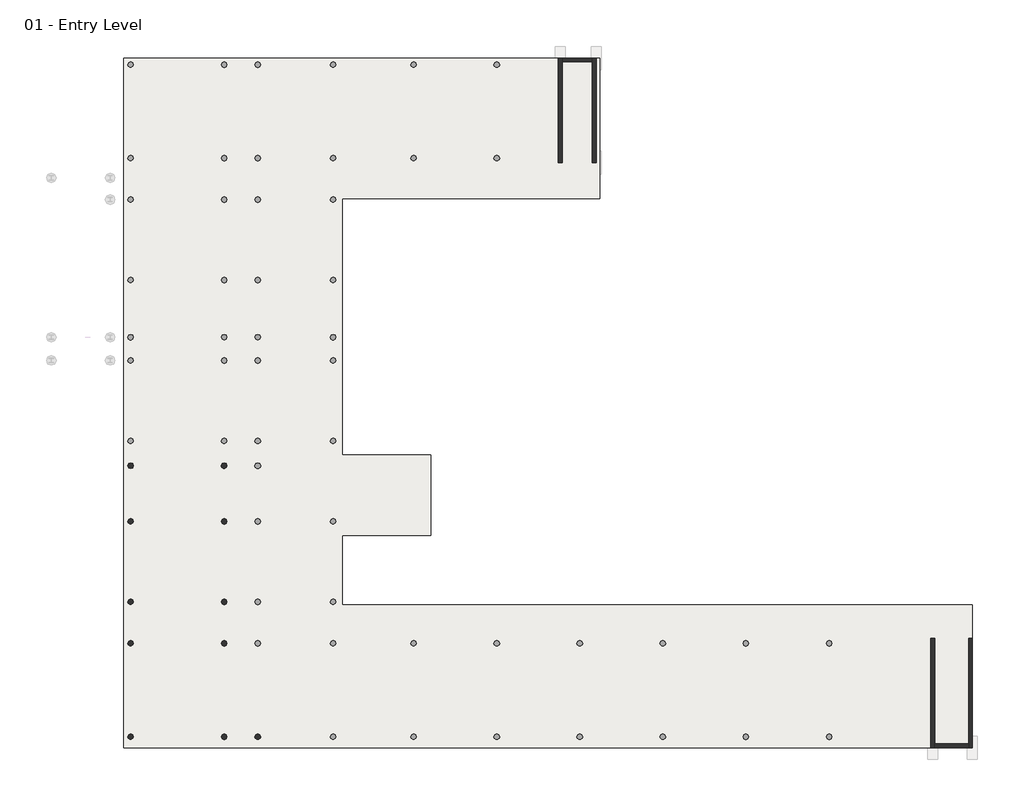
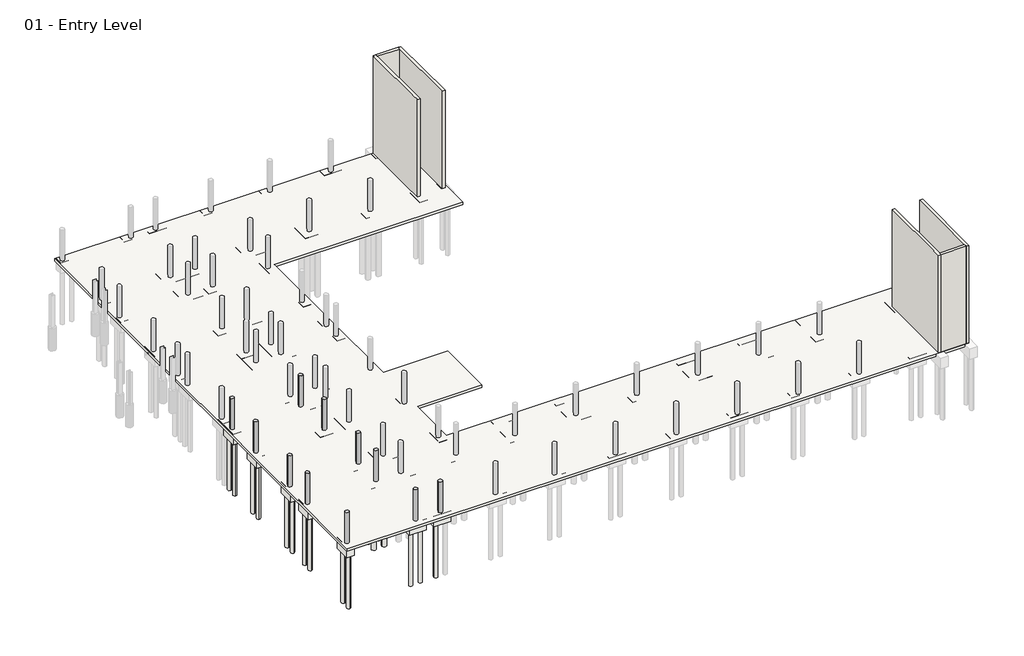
# One storey, part 1 of 6: 43 slabs, 11 columns, 6 walls.
"""IFC4 building model written with IfcOpenShell, lengths in millimetres."""

from ifc_helpers import new_model, si_unit, point, frame, frame_2d, origin, origin_with_axes, place, context, project, spatial, polyline, circle_curve, trimmed, segment, composite_curve, outline, extrude, faceted_brep, element, save
from ifc_brep_helpers import plane_surface, cylinder_surface, advanced_brep

model = new_model("IFC4")

# Units and contexts
model_context = context("Model", 3, world=origin())
ifc_project = project(units=[si_unit("LENGTHUNIT", "METRE", prefix="MILLI")], contexts=[model_context])

# Site, building, storey
site = spatial("IfcSite", under=ifc_project)
building = spatial("IfcBuilding", under=site)
storey = spatial("IfcBuildingStorey", under=building, Name="01 - Entry Level", Elevation=0.0)

# Columns
placement = place(None, origin())
element("IfcColumn", 1, ObjectType="M_Concrete-Round-Column : 450mm", at=placement, inside=storey, context=model_context, shape_type="SweptSolid", body=[
    extrude(outline(composite_curve([segment(trimmed(circle_curve(frame_2d((-9201.9994416, -5769.4613801)), 225.0), [point((-8976.9994416, -5769.4613801))], [point((-9426.9994416, -5769.4613801))], False, "CARTESIAN"), True, "CONTINUOUS"), segment(trimmed(circle_curve(frame_2d((-9201.9994416, -5769.4613801)), 225.0), [point((-9426.9994416, -5769.4613801))], [point((-8976.9994416, -5769.4613801))], False, "CARTESIAN"), True, "CONTINUOUS")], self_intersect=False)), origin_with_axes(), (0.0, 0.0, 1.0), 3500.0),
])
element("IfcColumn", 2, ObjectType="M_Concrete-Round-Column : 450mm", at=placement, inside=storey, context=model_context, shape_type="SweptSolid", body=[
    extrude(outline(composite_curve([segment(trimmed(circle_curve(frame_2d((-9201.9994416, -12068.6613801)), 225.0), [point((-8976.9994416, -12068.6613801))], [point((-9426.9994416, -12068.6613801))], False, "CARTESIAN"), True, "CONTINUOUS"), segment(trimmed(circle_curve(frame_2d((-9201.9994416, -12068.6613801)), 225.0), [point((-9426.9994416, -12068.6613801))], [point((-8976.9994416, -12068.6613801))], False, "CARTESIAN"), True, "CONTINUOUS")], self_intersect=False)), origin_with_axes(), (0.0, 0.0, 1.0), 3500.0),
])
element("IfcColumn", 3, ObjectType="M_Concrete-Round-Column : 450mm", at=placement, inside=storey, context=model_context, shape_type="SweptSolid", body=[
    extrude(outline(composite_curve([segment(trimmed(circle_curve(frame_2d((-9201.9994416, -15319.8613801)), 225.0), [point((-8976.9994416, -15319.8613801))], [point((-9426.9994416, -15319.8613801))], False, "CARTESIAN"), True, "CONTINUOUS"), segment(trimmed(circle_curve(frame_2d((-9201.9994416, -15319.8613801)), 225.0), [point((-9426.9994416, -15319.8613801))], [point((-8976.9994416, -15319.8613801))], False, "CARTESIAN"), True, "CONTINUOUS")], self_intersect=False)), origin_with_axes(), (0.0, 0.0, 1.0), 3500.0),
])
element("IfcColumn", 4, ObjectType="M_Concrete-Round-Column : 450mm", at=placement, inside=storey, context=model_context, shape_type="SweptSolid", body=[
    extrude(outline(composite_curve([segment(trimmed(circle_curve(frame_2d((-9201.9994416, -22635.0613801)), 225.0), [point((-8976.9994416, -22635.0613801))], [point((-9426.9994416, -22635.0613801))], False, "CARTESIAN"), True, "CONTINUOUS"), segment(trimmed(circle_curve(frame_2d((-9201.9994416, -22635.0613801)), 225.0), [point((-9426.9994416, -22635.0613801))], [point((-8976.9994416, -22635.0613801))], False, "CARTESIAN"), True, "CONTINUOUS")], self_intersect=False)), origin_with_axes(), (0.0, 0.0, 1.0), 3500.0),
])
element("IfcColumn", 5, ObjectType="M_Concrete-Round-Column : 450mm", at=placement, inside=storey, context=model_context, shape_type="SweptSolid", body=[
    extrude(outline(composite_curve([segment(trimmed(circle_curve(frame_2d((-9201.9994416, -1413.3613801)), 225.0), [point((-8976.9994416, -1413.3613801))], [point((-9426.9994416, -1413.3613801))], False, "CARTESIAN"), True, "CONTINUOUS"), segment(trimmed(circle_curve(frame_2d((-9201.9994416, -1413.3613801)), 225.0), [point((-9426.9994416, -1413.3613801))], [point((-8976.9994416, -1413.3613801))], False, "CARTESIAN"), True, "CONTINUOUS")], self_intersect=False)), origin_with_axes(), (0.0, 0.0, 1.0), 3500.0),
])
element("IfcColumn", 6, ObjectType="M_Concrete-Round-Column : 450mm", at=placement, inside=storey, context=model_context, shape_type="SweptSolid", body=[
    extrude(outline(composite_curve([segment(trimmed(circle_curve(frame_2d((-1886.7994416, -5769.4613801)), 225.0), [point((-1661.7994416, -5769.4613801))], [point((-2111.7994416, -5769.4613801))], False, "CARTESIAN"), True, "CONTINUOUS"), segment(trimmed(circle_curve(frame_2d((-1886.7994416, -5769.4613801)), 225.0), [point((-2111.7994416, -5769.4613801))], [point((-1661.7994416, -5769.4613801))], False, "CARTESIAN"), True, "CONTINUOUS")], self_intersect=False)), origin_with_axes(), (0.0, 0.0, 1.0), 3500.0),
])
element("IfcColumn", 7, ObjectType="M_Concrete-Round-Column : 450mm", at=placement, inside=storey, context=model_context, shape_type="SweptSolid", body=[
    extrude(outline(composite_curve([segment(trimmed(circle_curve(frame_2d((-1886.7994416, -12068.6613801)), 225.0), [point((-1661.7994416, -12068.6613801))], [point((-2111.7994416, -12068.6613801))], False, "CARTESIAN"), True, "CONTINUOUS"), segment(trimmed(circle_curve(frame_2d((-1886.7994416, -12068.6613801)), 225.0), [point((-2111.7994416, -12068.6613801))], [point((-1661.7994416, -12068.6613801))], False, "CARTESIAN"), True, "CONTINUOUS")], self_intersect=False)), origin_with_axes(), (0.0, 0.0, 1.0), 3500.0),
])
element("IfcColumn", 8, ObjectType="M_Concrete-Round-Column : 450mm", at=placement, inside=storey, context=model_context, shape_type="SweptSolid", body=[
    extrude(outline(composite_curve([segment(trimmed(circle_curve(frame_2d((-1886.7994416, -15319.8613801)), 225.0), [point((-1661.7994416, -15319.8613801))], [point((-2111.7994416, -15319.8613801))], False, "CARTESIAN"), True, "CONTINUOUS"), segment(trimmed(circle_curve(frame_2d((-1886.7994416, -15319.8613801)), 225.0), [point((-2111.7994416, -15319.8613801))], [point((-1661.7994416, -15319.8613801))], False, "CARTESIAN"), True, "CONTINUOUS")], self_intersect=False)), origin_with_axes(), (0.0, 0.0, 1.0), 3500.0),
])
element("IfcColumn", 9, ObjectType="M_Concrete-Round-Column : 450mm", at=placement, inside=storey, context=model_context, shape_type="SweptSolid", body=[
    extrude(outline(composite_curve([segment(trimmed(circle_curve(frame_2d((-1886.7994416, -22635.0613801)), 225.0), [point((-1661.7994416, -22635.0613801))], [point((-2111.7994416, -22635.0613801))], False, "CARTESIAN"), True, "CONTINUOUS"), segment(trimmed(circle_curve(frame_2d((-1886.7994416, -22635.0613801)), 225.0), [point((-2111.7994416, -22635.0613801))], [point((-1661.7994416, -22635.0613801))], False, "CARTESIAN"), True, "CONTINUOUS")], self_intersect=False)), origin_with_axes(), (0.0, 0.0, 1.0), 3500.0),
])
element("IfcColumn", 10, ObjectType="M_Concrete-Round-Column : 450mm", at=placement, inside=storey, context=model_context, shape_type="SweptSolid", body=[
    extrude(outline(composite_curve([segment(trimmed(circle_curve(frame_2d((-1886.7994416, -1413.3613801)), 225.0), [point((-1661.7994416, -1413.3613801))], [point((-2111.7994416, -1413.3613801))], False, "CARTESIAN"), True, "CONTINUOUS"), segment(trimmed(circle_curve(frame_2d((-1886.7994416, -1413.3613801)), 225.0), [point((-2111.7994416, -1413.3613801))], [point((-1661.7994416, -1413.3613801))], False, "CARTESIAN"), True, "CONTINUOUS")], self_intersect=False)), origin_with_axes(), (0.0, 0.0, 1.0), 3500.0),
])
element("IfcColumn", 11, ObjectType="M_Concrete-Round-Column : 450mm", at=placement, inside=storey, context=model_context, shape_type="AdvancedBrep", body=[
    advanced_brep(
    [(529.8005584, -22635.0613801, 0.0), (979.8005584, -22635.0613801, 0.0), (529.8005584, -22635.0613801, 3500.0), (651.7257264, -22435.0599326, 3500.0), (857.878199, -22435.0613801, 3500.0), (979.8005584, -22635.0613801, 3500.0), (857.878199, -22835.0613801, 3500.0), (651.7257264, -22835.0628276, 3500.0)],
    [
        (0, 1, circle_curve(frame((754.8005584, -22635.0613801, 0.0), z_axis=(0.0, 0.0, -1.0), x_axis=(1.0, 0.0, 0.0)), 225.0)),
        (1, 0, circle_curve(frame((754.8005584, -22635.0613801, 0.0), z_axis=(0.0, 0.0, -1.0), x_axis=(1.0, 0.0, 0.0)), 225.0)),
        (0, 2),
        (2, 3, circle_curve(frame((754.8005584, -22635.0613801, 3500.0), z_axis=(0.0, 0.0, -1.0), x_axis=(1.0, 0.0, 0.0)), 225.0)),
        (3, 4, circle_curve(frame((754.8005584, -22635.0613801, 3500.0), z_axis=(0.0, 0.0, -1.0), x_axis=(1.0, 0.0, 0.0)), 225.0)),
        (4, 5, circle_curve(frame((754.8005584, -22635.0613801, 3500.0), z_axis=(0.0, 0.0, -1.0), x_axis=(1.0, 0.0, 0.0)), 225.0)),
        (5, 1),
        (5, 6, circle_curve(frame((754.8005584, -22635.0613801, 3500.0), z_axis=(0.0, 0.0, -1.0), x_axis=(1.0, 0.0, 0.0)), 225.0)),
        (6, 7, circle_curve(frame((754.8005584, -22635.0613801, 3500.0), z_axis=(0.0, 0.0, -1.0), x_axis=(1.0, 0.0, 0.0)), 225.0)),
        (7, 2, circle_curve(frame((754.8005584, -22635.0613801, 3500.0), z_axis=(0.0, 0.0, -1.0), x_axis=(1.0, 0.0, 0.0)), 225.0)),
    ],
    [
        plane_surface(frame((979.8005584, -22635.0613801, 0.0), z_axis=(0.0, 0.0, -1.0), x_axis=(0.0, -1.0, 0.0))),
        cylinder_surface(frame((754.8005584, -22635.0613801, 0.0), z_axis=(0.0, 0.0, 1.0), x_axis=(1.0, 0.0, 0.0)), 225.0),
        plane_surface(frame((24268.8999097, 30514.0407562, 3500.0), z_axis=(0.0, 0.0, 1.0), x_axis=(0.0, -1.0, 0.0))),
    ],
    [
        (0, [[1, 2]]),
        (1, [[-1, 3, 4, 5, 6, 7]]),
        (1, [[-2, -7, 8, 9, 10, -3]]),
        (2, [[-6, -5, -4, -10, -9, -8]]),
    ],
),
])

# Slabs
element("IfcSlab", 12, ObjectType="Generic 300mm", at=placement, inside=storey, context=model_context, shape_type="SweptSolid", body=[
    extrude(outline(polyline([(27511.8999097, 30514.0407562), (27511.8999097, 19514.0407562), (7377.7005607, 19514.0407562), (7377.7005607, -585.9592438), (14277.7005607, -585.9592438), (14277.7005607, -6885.9592438), (7377.7005607, -6885.9592438), (7377.7005607, -12296.3611817), (56672.578114, -12296.3611817), (56672.578114, -23495.0613801), (-9722.2994393, -23495.0613801), (-9722.2994393, 30514.0407562), (27511.8999097, 30514.0407562)])), frame((0.0, 0.0, -300.0), z_axis=(0.0, 0.0, 1.0), x_axis=(1.0, 0.0, 0.0)), (0.0, 0.0, 1.0), 300.0),
])
element("IfcSlab", 13, ObjectType="M_Pile Cap-2 Pile : 800 x 1800 x 900mm", at=placement, inside=storey, context=model_context, shape_type="SweptSolid", body=[
    extrude(outline(polyline([(-9601.9994416, -513.3613801), (-8801.9994416, -513.3613801), (-8801.9994416, -2313.3613801), (-9601.9994416, -2313.3613801), (-9601.9994416, -513.3613801)])), frame((0.0, 0.0, -1200.0), z_axis=(0.0, 0.0, 1.0), x_axis=(1.0, 0.0, 0.0)), (0.0, 0.0, 1.0), 1200.0),
])
element("IfcSlab", 14, ObjectType="M_Pile Cap-2 Pile : 800 x 1800 x 900mm", at=placement, inside=storey, context=model_context, shape_type="SweptSolid", body=[
    extrude(outline(polyline([(-9601.9994416, -4869.4613801), (-8801.9994416, -4869.4613801), (-8801.9994416, -6669.4613801), (-9601.9994416, -6669.4613801), (-9601.9994416, -4869.4613801)])), frame((0.0, 0.0, -1200.0), z_axis=(0.0, 0.0, 1.0), x_axis=(1.0, 0.0, 0.0)), (0.0, 0.0, 1.0), 1200.0),
])
element("IfcSlab", 15, ObjectType="M_Pile Cap-2 Pile : 800 x 1800 x 900mm", at=placement, inside=storey, context=model_context, shape_type="SweptSolid", body=[
    extrude(outline(polyline([(-9601.9994416, -11168.6613801), (-8801.9994416, -11168.6613801), (-8801.9994416, -12968.6613801), (-9601.9994416, -12968.6613801), (-9601.9994416, -11168.6613801)])), frame((0.0, 0.0, -1200.0), z_axis=(0.0, 0.0, 1.0), x_axis=(1.0, 0.0, 0.0)), (0.0, 0.0, 1.0), 1200.0),
])
element("IfcSlab", 16, ObjectType="M_Pile Cap-2 Pile : 800 x 1800 x 900mm", at=placement, inside=storey, context=model_context, shape_type="SweptSolid", body=[
    extrude(outline(polyline([(-9601.9994416, -14419.8613801), (-8801.9994416, -14419.8613801), (-8801.9994416, -16219.8613801), (-9601.9994416, -16219.8613801), (-9601.9994416, -14419.8613801)])), frame((0.0, 0.0, -1200.0), z_axis=(0.0, 0.0, 1.0), x_axis=(1.0, 0.0, 0.0)), (0.0, 0.0, 1.0), 1200.0),
])
element("IfcSlab", 17, ObjectType="M_Pile Cap-2 Pile : 800 x 1800 x 900mm", at=placement, inside=storey, context=model_context, shape_type="SweptSolid", body=[
    extrude(outline(polyline([(-9601.9994416, -21510.0613801), (-8801.9994416, -21510.0613801), (-8801.9994416, -23310.0613801), (-9601.9994416, -23310.0613801), (-9601.9994416, -21510.0613801)])), frame((0.0, 0.0, -1200.0), z_axis=(0.0, 0.0, 1.0), x_axis=(1.0, 0.0, 0.0)), (0.0, 0.0, 1.0), 1200.0),
])
element("IfcSlab", 18, ObjectType="M_Pile Cap-2 Pile : 800 x 1800 x 900mm", at=placement, inside=storey, context=model_context, shape_type="SweptSolid", body=[
    extrude(outline(polyline([(-986.7994416, -22235.0613801), (-986.7994416, -23035.0613801), (-2786.7994416, -23035.0613801), (-2786.7994416, -22235.0613801), (-986.7994416, -22235.0613801)])), frame((0.0, 0.0, -1200.0), z_axis=(0.0, 0.0, 1.0), x_axis=(1.0, 0.0, 0.0)), (0.0, 0.0, 1.0), 1200.0),
])
element("IfcSlab", 19, ObjectType="M_Pile Cap-2 Pile : 800 x 1800 x 900mm", at=placement, inside=storey, context=model_context, shape_type="SweptSolid", body=[
    extrude(outline(polyline([(1654.8005584, -22235.0613801), (1654.8005584, -23035.0613801), (-145.1994416, -23035.0613801), (-145.1994416, -22235.0613801), (1654.8005584, -22235.0613801)])), frame((0.0, 0.0, -1200.0), z_axis=(0.0, 0.0, 1.0), x_axis=(1.0, 0.0, 0.0)), (0.0, 0.0, 1.0), 1200.0),
])
element("IfcSlab", 20, ObjectType="M_Pile Cap-4 Pile : 2000 x 2000 x 900mm", at=placement, inside=storey, context=model_context, shape_type="SweptSolid", body=[
    extrude(outline(polyline([(-886.7994416, -14319.8613801), (-886.7994416, -16319.8613801), (-2886.7994416, -16319.8613801), (-2886.7994416, -14319.8613801), (-886.7994416, -14319.8613801)])), frame((0.0, 0.0, -1200.0), z_axis=(0.0, 0.0, 1.0), x_axis=(1.0, 0.0, 0.0)), (0.0, 0.0, 1.0), 1200.0),
])
element("IfcSlab", 21, ObjectType="M_Pile Cap-4 Pile : 2000 x 2000 x 900mm", at=placement, inside=storey, context=model_context, shape_type="SweptSolid", body=[
    extrude(outline(polyline([(-886.7994416, -11068.6613801), (-886.7994416, -13068.6613801), (-2886.7994416, -13068.6613801), (-2886.7994416, -11068.6613801), (-886.7994416, -11068.6613801)])), frame((0.0, 0.0, -1200.0), z_axis=(0.0, 0.0, 1.0), x_axis=(1.0, 0.0, 0.0)), (0.0, 0.0, 1.0), 1200.0),
])
element("IfcSlab", 22, ObjectType="M_Pile Cap-4 Pile : 2000 x 2000 x 900mm", at=placement, inside=storey, context=model_context, shape_type="SweptSolid", body=[
    extrude(outline(polyline([(-886.7994416, -4769.4613801), (-886.7994416, -6769.4613801), (-2886.7994416, -6769.4613801), (-2886.7994416, -4769.4613801), (-886.7994416, -4769.4613801)])), frame((0.0, 0.0, -1200.0), z_axis=(0.0, 0.0, 1.0), x_axis=(1.0, 0.0, 0.0)), (0.0, 0.0, 1.0), 1200.0),
])
element("IfcSlab", 23, ObjectType="M_Pile Cap-4 Pile : 2000 x 2000 x 900mm", at=placement, inside=storey, context=model_context, shape_type="SweptSolid", body=[
    extrude(outline(polyline([(-886.7994416, -413.3613801), (-886.7994416, -2413.3613801), (-2886.7994416, -2413.3613801), (-2886.7994416, -413.3613801), (-886.7994416, -413.3613801)])), frame((0.0, 0.0, -1200.0), z_axis=(0.0, 0.0, 1.0), x_axis=(1.0, 0.0, 0.0)), (0.0, 0.0, 1.0), 1200.0),
])
element("IfcSlab", 24, ObjectType="M_Pile-Steel Pipe : 400mm Diameter", at=placement, inside=storey, context=model_context, shape_type="SweptSolid", body=[
    extrude(outline(composite_curve([segment(trimmed(circle_curve(frame_2d((-9201.9994416, -1913.3613801)), 200.0), [point((-9201.9994416, -2113.3613801))], [point((-9201.9994416, -1713.3613801))], False, "CARTESIAN"), True, "CONTINUOUS"), segment(trimmed(circle_curve(frame_2d((-9201.9994416, -1913.3613801)), 200.0), [point((-9201.9994416, -1713.3613801))], [point((-9201.9994416, -2113.3613801))], False, "CARTESIAN"), True, "CONTINUOUS")], self_intersect=False)), frame((0.0, 0.0, -7200.0), z_axis=(0.0, 0.0, 1.0), x_axis=(1.0, 0.0, 0.0)), (0.0, 0.0, 1.0), 6000.0),
])
element("IfcSlab", 25, ObjectType="M_Pile-Steel Pipe : 400mm Diameter", at=placement, inside=storey, context=model_context, shape_type="SweptSolid", body=[
    extrude(outline(composite_curve([segment(trimmed(circle_curve(frame_2d((-9201.9994416, -913.3613801)), 200.0), [point((-9201.9994416, -1113.3613801))], [point((-9201.9994416, -713.3613801))], False, "CARTESIAN"), True, "CONTINUOUS"), segment(trimmed(circle_curve(frame_2d((-9201.9994416, -913.3613801)), 200.0), [point((-9201.9994416, -713.3613801))], [point((-9201.9994416, -1113.3613801))], False, "CARTESIAN"), True, "CONTINUOUS")], self_intersect=False)), frame((0.0, 0.0, -7200.0), z_axis=(0.0, 0.0, 1.0), x_axis=(1.0, 0.0, 0.0)), (0.0, 0.0, 1.0), 6000.0),
])
element("IfcSlab", 26, ObjectType="M_Pile-Steel Pipe : 400mm Diameter", at=placement, inside=storey, context=model_context, shape_type="SweptSolid", body=[
    extrude(outline(composite_curve([segment(trimmed(circle_curve(frame_2d((-9201.9994416, -6269.4613801)), 200.0), [point((-9201.9994416, -6469.4613801))], [point((-9201.9994416, -6069.4613801))], False, "CARTESIAN"), True, "CONTINUOUS"), segment(trimmed(circle_curve(frame_2d((-9201.9994416, -6269.4613801)), 200.0), [point((-9201.9994416, -6069.4613801))], [point((-9201.9994416, -6469.4613801))], False, "CARTESIAN"), True, "CONTINUOUS")], self_intersect=False)), frame((0.0, 0.0, -7200.0), z_axis=(0.0, 0.0, 1.0), x_axis=(1.0, 0.0, 0.0)), (0.0, 0.0, 1.0), 6000.0),
])
element("IfcSlab", 27, ObjectType="M_Pile-Steel Pipe : 400mm Diameter", at=placement, inside=storey, context=model_context, shape_type="SweptSolid", body=[
    extrude(outline(composite_curve([segment(trimmed(circle_curve(frame_2d((-9201.9994416, -5269.4613801)), 200.0), [point((-9201.9994416, -5469.4613801))], [point((-9201.9994416, -5069.4613801))], False, "CARTESIAN"), True, "CONTINUOUS"), segment(trimmed(circle_curve(frame_2d((-9201.9994416, -5269.4613801)), 200.0), [point((-9201.9994416, -5069.4613801))], [point((-9201.9994416, -5469.4613801))], False, "CARTESIAN"), True, "CONTINUOUS")], self_intersect=False)), frame((0.0, 0.0, -7200.0), z_axis=(0.0, 0.0, 1.0), x_axis=(1.0, 0.0, 0.0)), (0.0, 0.0, 1.0), 6000.0),
])
element("IfcSlab", 28, ObjectType="M_Pile-Steel Pipe : 400mm Diameter", at=placement, inside=storey, context=model_context, shape_type="SweptSolid", body=[
    extrude(outline(composite_curve([segment(trimmed(circle_curve(frame_2d((-9201.9994416, -12568.6613801)), 200.0), [point((-9201.9994416, -12768.6613801))], [point((-9201.9994416, -12368.6613801))], False, "CARTESIAN"), True, "CONTINUOUS"), segment(trimmed(circle_curve(frame_2d((-9201.9994416, -12568.6613801)), 200.0), [point((-9201.9994416, -12368.6613801))], [point((-9201.9994416, -12768.6613801))], False, "CARTESIAN"), True, "CONTINUOUS")], self_intersect=False)), frame((0.0, 0.0, -7200.0), z_axis=(0.0, 0.0, 1.0), x_axis=(1.0, 0.0, 0.0)), (0.0, 0.0, 1.0), 6000.0),
])
element("IfcSlab", 29, ObjectType="M_Pile-Steel Pipe : 400mm Diameter", at=placement, inside=storey, context=model_context, shape_type="SweptSolid", body=[
    extrude(outline(composite_curve([segment(trimmed(circle_curve(frame_2d((-9201.9994416, -11568.6613801)), 200.0), [point((-9201.9994416, -11768.6613801))], [point((-9201.9994416, -11368.6613801))], False, "CARTESIAN"), True, "CONTINUOUS"), segment(trimmed(circle_curve(frame_2d((-9201.9994416, -11568.6613801)), 200.0), [point((-9201.9994416, -11368.6613801))], [point((-9201.9994416, -11768.6613801))], False, "CARTESIAN"), True, "CONTINUOUS")], self_intersect=False)), frame((0.0, 0.0, -7200.0), z_axis=(0.0, 0.0, 1.0), x_axis=(1.0, 0.0, 0.0)), (0.0, 0.0, 1.0), 6000.0),
])
element("IfcSlab", 30, ObjectType="M_Pile-Steel Pipe : 400mm Diameter", at=placement, inside=storey, context=model_context, shape_type="SweptSolid", body=[
    extrude(outline(composite_curve([segment(trimmed(circle_curve(frame_2d((-9201.9994416, -15819.8613801)), 200.0), [point((-9201.9994416, -16019.8613801))], [point((-9201.9994416, -15619.8613801))], False, "CARTESIAN"), True, "CONTINUOUS"), segment(trimmed(circle_curve(frame_2d((-9201.9994416, -15819.8613801)), 200.0), [point((-9201.9994416, -15619.8613801))], [point((-9201.9994416, -16019.8613801))], False, "CARTESIAN"), True, "CONTINUOUS")], self_intersect=False)), frame((0.0, 0.0, -7200.0), z_axis=(0.0, 0.0, 1.0), x_axis=(1.0, 0.0, 0.0)), (0.0, 0.0, 1.0), 6000.0),
])
element("IfcSlab", 31, ObjectType="M_Pile-Steel Pipe : 400mm Diameter", at=placement, inside=storey, context=model_context, shape_type="SweptSolid", body=[
    extrude(outline(composite_curve([segment(trimmed(circle_curve(frame_2d((-9201.9994416, -14819.8613801)), 200.0), [point((-9201.9994416, -15019.8613801))], [point((-9201.9994416, -14619.8613801))], False, "CARTESIAN"), True, "CONTINUOUS"), segment(trimmed(circle_curve(frame_2d((-9201.9994416, -14819.8613801)), 200.0), [point((-9201.9994416, -14619.8613801))], [point((-9201.9994416, -15019.8613801))], False, "CARTESIAN"), True, "CONTINUOUS")], self_intersect=False)), frame((0.0, 0.0, -7200.0), z_axis=(0.0, 0.0, 1.0), x_axis=(1.0, 0.0, 0.0)), (0.0, 0.0, 1.0), 6000.0),
])
element("IfcSlab", 32, ObjectType="M_Pile-Steel Pipe : 400mm Diameter", at=placement, inside=storey, context=model_context, shape_type="SweptSolid", body=[
    extrude(outline(composite_curve([segment(trimmed(circle_curve(frame_2d((-9201.9994416, -22910.0613801)), 200.0), [point((-9201.9994416, -23110.0613801))], [point((-9201.9994416, -22710.0613801))], False, "CARTESIAN"), True, "CONTINUOUS"), segment(trimmed(circle_curve(frame_2d((-9201.9994416, -22910.0613801)), 200.0), [point((-9201.9994416, -22710.0613801))], [point((-9201.9994416, -23110.0613801))], False, "CARTESIAN"), True, "CONTINUOUS")], self_intersect=False)), frame((0.0, 0.0, -7200.0), z_axis=(0.0, 0.0, 1.0), x_axis=(1.0, 0.0, 0.0)), (0.0, 0.0, 1.0), 6000.0),
])
element("IfcSlab", 33, ObjectType="M_Pile-Steel Pipe : 400mm Diameter", at=placement, inside=storey, context=model_context, shape_type="SweptSolid", body=[
    extrude(outline(composite_curve([segment(trimmed(circle_curve(frame_2d((-9201.9994416, -21910.0613801)), 200.0), [point((-9201.9994416, -22110.0613801))], [point((-9201.9994416, -21710.0613801))], False, "CARTESIAN"), True, "CONTINUOUS"), segment(trimmed(circle_curve(frame_2d((-9201.9994416, -21910.0613801)), 200.0), [point((-9201.9994416, -21710.0613801))], [point((-9201.9994416, -22110.0613801))], False, "CARTESIAN"), True, "CONTINUOUS")], self_intersect=False)), frame((0.0, 0.0, -7200.0), z_axis=(0.0, 0.0, 1.0), x_axis=(1.0, 0.0, 0.0)), (0.0, 0.0, 1.0), 6000.0),
])
element("IfcSlab", 34, ObjectType="M_Pile-Steel Pipe : 400mm Diameter", at=placement, inside=storey, context=model_context, shape_type="SweptSolid", body=[
    extrude(outline(composite_curve([segment(trimmed(circle_curve(frame_2d((-2386.7994416, -22635.0613801)), 200.0), [point((-2586.7994416, -22635.0613801))], [point((-2186.7994416, -22635.0613801))], False, "CARTESIAN"), True, "CONTINUOUS"), segment(trimmed(circle_curve(frame_2d((-2386.7994416, -22635.0613801)), 200.0), [point((-2186.7994416, -22635.0613801))], [point((-2586.7994416, -22635.0613801))], False, "CARTESIAN"), True, "CONTINUOUS")], self_intersect=False)), frame((0.0, 0.0, -7200.0), z_axis=(0.0, 0.0, 1.0), x_axis=(1.0, 0.0, 0.0)), (0.0, 0.0, 1.0), 6000.0),
])
element("IfcSlab", 35, ObjectType="M_Pile-Steel Pipe : 400mm Diameter", at=placement, inside=storey, context=model_context, shape_type="SweptSolid", body=[
    extrude(outline(composite_curve([segment(trimmed(circle_curve(frame_2d((-1386.7994416, -22635.0613801)), 200.0), [point((-1586.7994416, -22635.0613801))], [point((-1186.7994416, -22635.0613801))], False, "CARTESIAN"), True, "CONTINUOUS"), segment(trimmed(circle_curve(frame_2d((-1386.7994416, -22635.0613801)), 200.0), [point((-1186.7994416, -22635.0613801))], [point((-1586.7994416, -22635.0613801))], False, "CARTESIAN"), True, "CONTINUOUS")], self_intersect=False)), frame((0.0, 0.0, -7200.0), z_axis=(0.0, 0.0, 1.0), x_axis=(1.0, 0.0, 0.0)), (0.0, 0.0, 1.0), 6000.0),
])
element("IfcSlab", 36, ObjectType="M_Pile-Steel Pipe : 400mm Diameter", at=placement, inside=storey, context=model_context, shape_type="SweptSolid", body=[
    extrude(outline(composite_curve([segment(trimmed(circle_curve(frame_2d((254.8005584, -22635.0613801)), 200.0), [point((54.8005584, -22635.0613801))], [point((454.8005584, -22635.0613801))], False, "CARTESIAN"), True, "CONTINUOUS"), segment(trimmed(circle_curve(frame_2d((254.8005584, -22635.0613801)), 200.0), [point((454.8005584, -22635.0613801))], [point((54.8005584, -22635.0613801))], False, "CARTESIAN"), True, "CONTINUOUS")], self_intersect=False)), frame((0.0, 0.0, -7200.0), z_axis=(0.0, 0.0, 1.0), x_axis=(1.0, 0.0, 0.0)), (0.0, 0.0, 1.0), 6000.0),
])
element("IfcSlab", 37, ObjectType="M_Pile-Steel Pipe : 500mm Diameter", at=placement, inside=storey, context=model_context, shape_type="SweptSolid", body=[
    extrude(outline(composite_curve([segment(trimmed(circle_curve(frame_2d((-2436.7994416, -15869.8613801)), 250.0), [point((-2686.7994416, -15869.8613801))], [point((-2186.7994416, -15869.8613801))], False, "CARTESIAN"), True, "CONTINUOUS"), segment(trimmed(circle_curve(frame_2d((-2436.7994416, -15869.8613801)), 250.0), [point((-2186.7994416, -15869.8613801))], [point((-2686.7994416, -15869.8613801))], False, "CARTESIAN"), True, "CONTINUOUS")], self_intersect=False)), frame((0.0, 0.0, -7200.0), z_axis=(0.0, 0.0, 1.0), x_axis=(1.0, 0.0, 0.0)), (0.0, 0.0, 1.0), 6000.0),
])
element("IfcSlab", 38, ObjectType="M_Pile-Steel Pipe : 500mm Diameter", at=placement, inside=storey, context=model_context, shape_type="SweptSolid", body=[
    extrude(outline(composite_curve([segment(trimmed(circle_curve(frame_2d((-1336.7994416, -15869.8613801)), 250.0), [point((-1586.7994416, -15869.8613801))], [point((-1086.7994416, -15869.8613801))], False, "CARTESIAN"), True, "CONTINUOUS"), segment(trimmed(circle_curve(frame_2d((-1336.7994416, -15869.8613801)), 250.0), [point((-1086.7994416, -15869.8613801))], [point((-1586.7994416, -15869.8613801))], False, "CARTESIAN"), True, "CONTINUOUS")], self_intersect=False)), frame((0.0, 0.0, -7200.0), z_axis=(0.0, 0.0, 1.0), x_axis=(1.0, 0.0, 0.0)), (0.0, 0.0, 1.0), 6000.0),
])
element("IfcSlab", 39, ObjectType="M_Pile-Steel Pipe : 500mm Diameter", at=placement, inside=storey, context=model_context, shape_type="SweptSolid", body=[
    extrude(outline(composite_curve([segment(trimmed(circle_curve(frame_2d((-1336.7994416, -14769.8613801)), 250.0), [point((-1586.7994416, -14769.8613801))], [point((-1086.7994416, -14769.8613801))], False, "CARTESIAN"), True, "CONTINUOUS"), segment(trimmed(circle_curve(frame_2d((-1336.7994416, -14769.8613801)), 250.0), [point((-1086.7994416, -14769.8613801))], [point((-1586.7994416, -14769.8613801))], False, "CARTESIAN"), True, "CONTINUOUS")], self_intersect=False)), frame((0.0, 0.0, -7200.0), z_axis=(0.0, 0.0, 1.0), x_axis=(1.0, 0.0, 0.0)), (0.0, 0.0, 1.0), 6000.0),
])
element("IfcSlab", 40, ObjectType="M_Pile-Steel Pipe : 500mm Diameter", at=placement, inside=storey, context=model_context, shape_type="SweptSolid", body=[
    extrude(outline(composite_curve([segment(trimmed(circle_curve(frame_2d((-2436.7994416, -14769.8613801)), 250.0), [point((-2686.7994416, -14769.8613801))], [point((-2186.7994416, -14769.8613801))], False, "CARTESIAN"), True, "CONTINUOUS"), segment(trimmed(circle_curve(frame_2d((-2436.7994416, -14769.8613801)), 250.0), [point((-2186.7994416, -14769.8613801))], [point((-2686.7994416, -14769.8613801))], False, "CARTESIAN"), True, "CONTINUOUS")], self_intersect=False)), frame((0.0, 0.0, -7200.0), z_axis=(0.0, 0.0, 1.0), x_axis=(1.0, 0.0, 0.0)), (0.0, 0.0, 1.0), 6000.0),
])
element("IfcSlab", 41, ObjectType="M_Pile-Steel Pipe : 500mm Diameter", at=placement, inside=storey, context=model_context, shape_type="SweptSolid", body=[
    extrude(outline(composite_curve([segment(trimmed(circle_curve(frame_2d((-2436.7994416, -12618.6613801)), 250.0), [point((-2686.7994416, -12618.6613801))], [point((-2186.7994416, -12618.6613801))], False, "CARTESIAN"), True, "CONTINUOUS"), segment(trimmed(circle_curve(frame_2d((-2436.7994416, -12618.6613801)), 250.0), [point((-2186.7994416, -12618.6613801))], [point((-2686.7994416, -12618.6613801))], False, "CARTESIAN"), True, "CONTINUOUS")], self_intersect=False)), frame((0.0, 0.0, -7200.0), z_axis=(0.0, 0.0, 1.0), x_axis=(1.0, 0.0, 0.0)), (0.0, 0.0, 1.0), 6000.0),
])
element("IfcSlab", 42, ObjectType="M_Pile-Steel Pipe : 500mm Diameter", at=placement, inside=storey, context=model_context, shape_type="SweptSolid", body=[
    extrude(outline(composite_curve([segment(trimmed(circle_curve(frame_2d((-1336.7994416, -12618.6613801)), 250.0), [point((-1586.7994416, -12618.6613801))], [point((-1086.7994416, -12618.6613801))], False, "CARTESIAN"), True, "CONTINUOUS"), segment(trimmed(circle_curve(frame_2d((-1336.7994416, -12618.6613801)), 250.0), [point((-1086.7994416, -12618.6613801))], [point((-1586.7994416, -12618.6613801))], False, "CARTESIAN"), True, "CONTINUOUS")], self_intersect=False)), frame((0.0, 0.0, -7200.0), z_axis=(0.0, 0.0, 1.0), x_axis=(1.0, 0.0, 0.0)), (0.0, 0.0, 1.0), 6000.0),
])
element("IfcSlab", 43, ObjectType="M_Pile-Steel Pipe : 500mm Diameter", at=placement, inside=storey, context=model_context, shape_type="SweptSolid", body=[
    extrude(outline(composite_curve([segment(trimmed(circle_curve(frame_2d((-1336.7994416, -11518.6613801)), 250.0), [point((-1586.7994416, -11518.6613801))], [point((-1086.7994416, -11518.6613801))], False, "CARTESIAN"), True, "CONTINUOUS"), segment(trimmed(circle_curve(frame_2d((-1336.7994416, -11518.6613801)), 250.0), [point((-1086.7994416, -11518.6613801))], [point((-1586.7994416, -11518.6613801))], False, "CARTESIAN"), True, "CONTINUOUS")], self_intersect=False)), frame((0.0, 0.0, -7200.0), z_axis=(0.0, 0.0, 1.0), x_axis=(1.0, 0.0, 0.0)), (0.0, 0.0, 1.0), 6000.0),
])
element("IfcSlab", 44, ObjectType="M_Pile-Steel Pipe : 500mm Diameter", at=placement, inside=storey, context=model_context, shape_type="SweptSolid", body=[
    extrude(outline(composite_curve([segment(trimmed(circle_curve(frame_2d((-2436.7994416, -11518.6613801)), 250.0), [point((-2686.7994416, -11518.6613801))], [point((-2186.7994416, -11518.6613801))], False, "CARTESIAN"), True, "CONTINUOUS"), segment(trimmed(circle_curve(frame_2d((-2436.7994416, -11518.6613801)), 250.0), [point((-2186.7994416, -11518.6613801))], [point((-2686.7994416, -11518.6613801))], False, "CARTESIAN"), True, "CONTINUOUS")], self_intersect=False)), frame((0.0, 0.0, -7200.0), z_axis=(0.0, 0.0, 1.0), x_axis=(1.0, 0.0, 0.0)), (0.0, 0.0, 1.0), 6000.0),
])
element("IfcSlab", 45, ObjectType="M_Pile-Steel Pipe : 500mm Diameter", at=placement, inside=storey, context=model_context, shape_type="SweptSolid", body=[
    extrude(outline(composite_curve([segment(trimmed(circle_curve(frame_2d((-2436.7994416, -6319.4613801)), 250.0), [point((-2686.7994416, -6319.4613801))], [point((-2186.7994416, -6319.4613801))], False, "CARTESIAN"), True, "CONTINUOUS"), segment(trimmed(circle_curve(frame_2d((-2436.7994416, -6319.4613801)), 250.0), [point((-2186.7994416, -6319.4613801))], [point((-2686.7994416, -6319.4613801))], False, "CARTESIAN"), True, "CONTINUOUS")], self_intersect=False)), frame((0.0, 0.0, -7200.0), z_axis=(0.0, 0.0, 1.0), x_axis=(1.0, 0.0, 0.0)), (0.0, 0.0, 1.0), 6000.0),
])
element("IfcSlab", 46, ObjectType="M_Pile-Steel Pipe : 500mm Diameter", at=placement, inside=storey, context=model_context, shape_type="SweptSolid", body=[
    extrude(outline(composite_curve([segment(trimmed(circle_curve(frame_2d((-1336.7994416, -6319.4613801)), 250.0), [point((-1586.7994416, -6319.4613801))], [point((-1086.7994416, -6319.4613801))], False, "CARTESIAN"), True, "CONTINUOUS"), segment(trimmed(circle_curve(frame_2d((-1336.7994416, -6319.4613801)), 250.0), [point((-1086.7994416, -6319.4613801))], [point((-1586.7994416, -6319.4613801))], False, "CARTESIAN"), True, "CONTINUOUS")], self_intersect=False)), frame((0.0, 0.0, -7200.0), z_axis=(0.0, 0.0, 1.0), x_axis=(1.0, 0.0, 0.0)), (0.0, 0.0, 1.0), 6000.0),
])
element("IfcSlab", 47, ObjectType="M_Pile-Steel Pipe : 500mm Diameter", at=placement, inside=storey, context=model_context, shape_type="SweptSolid", body=[
    extrude(outline(composite_curve([segment(trimmed(circle_curve(frame_2d((-1336.7994416, -5219.4613801)), 250.0), [point((-1586.7994416, -5219.4613801))], [point((-1086.7994416, -5219.4613801))], False, "CARTESIAN"), True, "CONTINUOUS"), segment(trimmed(circle_curve(frame_2d((-1336.7994416, -5219.4613801)), 250.0), [point((-1086.7994416, -5219.4613801))], [point((-1586.7994416, -5219.4613801))], False, "CARTESIAN"), True, "CONTINUOUS")], self_intersect=False)), frame((0.0, 0.0, -7200.0), z_axis=(0.0, 0.0, 1.0), x_axis=(1.0, 0.0, 0.0)), (0.0, 0.0, 1.0), 6000.0),
])
element("IfcSlab", 48, ObjectType="M_Pile-Steel Pipe : 500mm Diameter", at=placement, inside=storey, context=model_context, shape_type="SweptSolid", body=[
    extrude(outline(composite_curve([segment(trimmed(circle_curve(frame_2d((-2436.7994416, -5219.4613801)), 250.0), [point((-2686.7994416, -5219.4613801))], [point((-2186.7994416, -5219.4613801))], False, "CARTESIAN"), True, "CONTINUOUS"), segment(trimmed(circle_curve(frame_2d((-2436.7994416, -5219.4613801)), 250.0), [point((-2186.7994416, -5219.4613801))], [point((-2686.7994416, -5219.4613801))], False, "CARTESIAN"), True, "CONTINUOUS")], self_intersect=False)), frame((0.0, 0.0, -7200.0), z_axis=(0.0, 0.0, 1.0), x_axis=(1.0, 0.0, 0.0)), (0.0, 0.0, 1.0), 6000.0),
])
element("IfcSlab", 49, ObjectType="M_Pile-Steel Pipe : 500mm Diameter", at=placement, inside=storey, context=model_context, shape_type="SweptSolid", body=[
    extrude(outline(composite_curve([segment(trimmed(circle_curve(frame_2d((-2436.7994416, -1963.3613801)), 250.0), [point((-2686.7994416, -1963.3613801))], [point((-2186.7994416, -1963.3613801))], False, "CARTESIAN"), True, "CONTINUOUS"), segment(trimmed(circle_curve(frame_2d((-2436.7994416, -1963.3613801)), 250.0), [point((-2186.7994416, -1963.3613801))], [point((-2686.7994416, -1963.3613801))], False, "CARTESIAN"), True, "CONTINUOUS")], self_intersect=False)), frame((0.0, 0.0, -7200.0), z_axis=(0.0, 0.0, 1.0), x_axis=(1.0, 0.0, 0.0)), (0.0, 0.0, 1.0), 6000.0),
])
element("IfcSlab", 50, ObjectType="M_Pile-Steel Pipe : 500mm Diameter", at=placement, inside=storey, context=model_context, shape_type="SweptSolid", body=[
    extrude(outline(composite_curve([segment(trimmed(circle_curve(frame_2d((-1336.7994416, -1963.3613801)), 250.0), [point((-1586.7994416, -1963.3613801))], [point((-1086.7994416, -1963.3613801))], False, "CARTESIAN"), True, "CONTINUOUS"), segment(trimmed(circle_curve(frame_2d((-1336.7994416, -1963.3613801)), 250.0), [point((-1086.7994416, -1963.3613801))], [point((-1586.7994416, -1963.3613801))], False, "CARTESIAN"), True, "CONTINUOUS")], self_intersect=False)), frame((0.0, 0.0, -7200.0), z_axis=(0.0, 0.0, 1.0), x_axis=(1.0, 0.0, 0.0)), (0.0, 0.0, 1.0), 6000.0),
])
element("IfcSlab", 51, ObjectType="M_Pile-Steel Pipe : 500mm Diameter", at=placement, inside=storey, context=model_context, shape_type="SweptSolid", body=[
    extrude(outline(composite_curve([segment(trimmed(circle_curve(frame_2d((-1336.7994416, -863.3613801)), 250.0), [point((-1586.7994416, -863.3613801))], [point((-1086.7994416, -863.3613801))], False, "CARTESIAN"), True, "CONTINUOUS"), segment(trimmed(circle_curve(frame_2d((-1336.7994416, -863.3613801)), 250.0), [point((-1086.7994416, -863.3613801))], [point((-1586.7994416, -863.3613801))], False, "CARTESIAN"), True, "CONTINUOUS")], self_intersect=False)), frame((0.0, 0.0, -7200.0), z_axis=(0.0, 0.0, 1.0), x_axis=(1.0, 0.0, 0.0)), (0.0, 0.0, 1.0), 6000.0),
])
element("IfcSlab", 52, ObjectType="M_Pile-Steel Pipe : 500mm Diameter", at=placement, inside=storey, context=model_context, shape_type="SweptSolid", body=[
    extrude(outline(composite_curve([segment(trimmed(circle_curve(frame_2d((-2436.7994416, -863.3613801)), 250.0), [point((-2686.7994416, -863.3613801))], [point((-2186.7994416, -863.3613801))], False, "CARTESIAN"), True, "CONTINUOUS"), segment(trimmed(circle_curve(frame_2d((-2436.7994416, -863.3613801)), 250.0), [point((-2186.7994416, -863.3613801))], [point((-2686.7994416, -863.3613801))], False, "CARTESIAN"), True, "CONTINUOUS")], self_intersect=False)), frame((0.0, 0.0, -7200.0), z_axis=(0.0, 0.0, 1.0), x_axis=(1.0, 0.0, 0.0)), (0.0, 0.0, 1.0), 6000.0),
])
element("IfcSlab", 53, ObjectType="M_Pile-Steel Pipe : 500mm Diameter", at=placement, inside=storey, context=model_context, shape_type="SweptSolid", body=[
    extrude(outline(composite_curve([segment(trimmed(circle_curve(frame_2d((-2436.7994416, -20.2613801)), 250.0), [point((-2686.7994416, -20.2613801))], [point((-2186.7994416, -20.2613801))], False, "CARTESIAN"), True, "CONTINUOUS"), segment(trimmed(circle_curve(frame_2d((-2436.7994416, -20.2613801)), 250.0), [point((-2186.7994416, -20.2613801))], [point((-2686.7994416, -20.2613801))], False, "CARTESIAN"), True, "CONTINUOUS")], self_intersect=False)), frame((0.0, 0.0, -7200.0), z_axis=(0.0, 0.0, 1.0), x_axis=(1.0, 0.0, 0.0)), (0.0, 0.0, 1.0), 6000.0),
])
element("IfcSlab", 54, ObjectType="M_Pile-Steel Pipe : 500mm Diameter", at=placement, inside=storey, context=model_context, shape_type="SweptSolid", body=[
    extrude(outline(composite_curve([segment(trimmed(circle_curve(frame_2d((-1336.7994416, -20.2613801)), 250.0), [point((-1586.7994416, -20.2613801))], [point((-1086.7994416, -20.2613801))], False, "CARTESIAN"), True, "CONTINUOUS"), segment(trimmed(circle_curve(frame_2d((-1336.7994416, -20.2613801)), 250.0), [point((-1086.7994416, -20.2613801))], [point((-1586.7994416, -20.2613801))], False, "CARTESIAN"), True, "CONTINUOUS")], self_intersect=False)), frame((0.0, 0.0, -7200.0), z_axis=(0.0, 0.0, 1.0), x_axis=(1.0, 0.0, 0.0)), (0.0, 0.0, 1.0), 6000.0),
])

# Walls
element("IfcWall", 55, ObjectType="Exterior - 300mm Concrete", at=placement, inside=storey, context=model_context, shape_type="Brep", body=[
    faceted_brep([(26946.5321953, 30514.0407562, 0.0), (26946.5321953, 30214.0407562, 0.0), (26946.5321953, 22339.0407562, 0.0), (26946.5321953, 22339.0407562, 11000.0), (26946.5321953, 30214.0407562, 11000.0), (26946.5321953, 30514.0407562, 11000.0), (27246.5321953, 30514.0407562, 0.0), (27246.5321953, 30514.0407562, 11000.0), (27246.5321953, 22339.0407562, 11000.0), (27246.5321953, 22339.0407562, 0.0)], [[[0, 1, 2, 3, 4, 5]], [[6, 7, 8, 9]], [[2, 1, 0, 6, 9]], [[3, 2, 9, 8]], [[0, 5, 7, 6]], [[5, 4, 3, 8, 7]]]),
])
element("IfcWall", 56, ObjectType="Exterior - 300mm Concrete", at=placement, inside=storey, context=model_context, shape_type="Brep", body=[
    faceted_brep([(24268.8999097, 30514.0407562, 0.0), (24268.8999097, 22339.0407562, 0.0), (24268.8999097, 22339.0407562, 11000.0), (24268.8999097, 22478.5386199, 11000.0), (24268.8999097, 22878.5386199, 11000.0), (24268.8999097, 29793.7386199, 11000.0), (24268.8999097, 30193.7386199, 11000.0), (24268.8999097, 30514.0407562, 11000.0), (24568.8999097, 30514.0407562, 0.0), (24568.8999097, 30514.0407562, 11000.0), (24568.8999097, 30214.0407562, 11000.0), (24568.8999097, 22339.0407562, 11000.0), (24568.8999097, 22339.0407562, 0.0), (24568.8999097, 30214.0407562, 0.0)], [[[0, 1, 2, 3, 4, 5, 6, 7]], [[8, 9, 10, 11, 12, 13]], [[1, 0, 8, 13, 12]], [[2, 1, 12, 11]], [[0, 7, 9, 8]], [[7, 6, 5, 4, 3, 2, 11, 10, 9]]]),
])
element("IfcWall", 57, ObjectType="Exterior - 300mm Concrete", at=placement, inside=storey, context=model_context, shape_type="Brep", body=[
    faceted_brep([(53429.578114, -14931.1613815, 0.0), (53429.578114, -23495.0613801, 0.0), (53429.578114, -23495.0613801, 11000.0), (53429.578114, -22835.0613801, 11000.0), (53429.578114, -22435.0613801, 11000.0), (53429.578114, -15519.8613801, 11000.0), (53429.578114, -15119.8613801, 11000.0), (53429.578114, -14931.1613815, 11000.0), (53729.578114, -14931.1613815, 0.0), (53729.578114, -14931.1613815, 11000.0), (53729.578114, -23195.0613801, 11000.0), (53729.578114, -23495.0613801, 11000.0), (53729.578114, -23495.0613801, 0.0), (53729.578114, -23195.0613801, 0.0)], [[[0, 1, 2, 3, 4, 5, 6, 7]], [[8, 9, 10, 11, 12, 13]], [[1, 0, 8, 13, 12]], [[0, 7, 9, 8]], [[2, 1, 12, 11]], [[7, 6, 5, 4, 3, 2, 11, 10, 9]]]),
])
element("IfcWall", 58, ObjectType="Exterior - 300mm Concrete", at=placement, inside=storey, context=model_context, shape_type="Brep", body=[
    faceted_brep([(56372.578114, -14931.1613815, 0.0), (56372.578114, -23195.0613801, 0.0), (56372.578114, -23495.0613801, 0.0), (56372.578114, -23495.0613801, 11000.0), (56372.578114, -23195.0613801, 11000.0), (56372.578114, -14931.1613815, 11000.0), (56672.578114, -14931.1613815, 0.0), (56672.578114, -14931.1613815, 11000.0), (56672.578114, -23495.0613801, 11000.0), (56672.578114, -23495.0613801, 0.0)], [[[0, 1, 2, 3, 4, 5]], [[6, 7, 8, 9]], [[2, 1, 0, 6, 9]], [[0, 5, 7, 6]], [[3, 2, 9, 8]], [[5, 4, 3, 8, 7]]]),
])
element("IfcWall", 59, ObjectType="Exterior - 300mm Concrete", at=placement, inside=storey, context=model_context, shape_type="SweptSolid", body=[
    extrude(outline(polyline([(24568.8999097, 30514.0407562), (26946.5321953, 30514.0407562), (26946.5321953, 30214.0407562), (24568.8999097, 30214.0407562), (24568.8999097, 30514.0407562)])), origin_with_axes(), (0.0, 0.0, 1.0), 11000.0),
])
element("IfcWall", 60, ObjectType="Exterior - 300mm Concrete", at=placement, inside=storey, context=model_context, shape_type="SweptSolid", body=[
    extrude(outline(polyline([(56372.578114, -23495.0613801), (53729.578114, -23495.0613801), (53729.578114, -23195.0613801), (56372.578114, -23195.0613801), (56372.578114, -23495.0613801)])), origin_with_axes(), (0.0, 0.0, 1.0), 11000.0),
])

save(model, "model.ifc")
